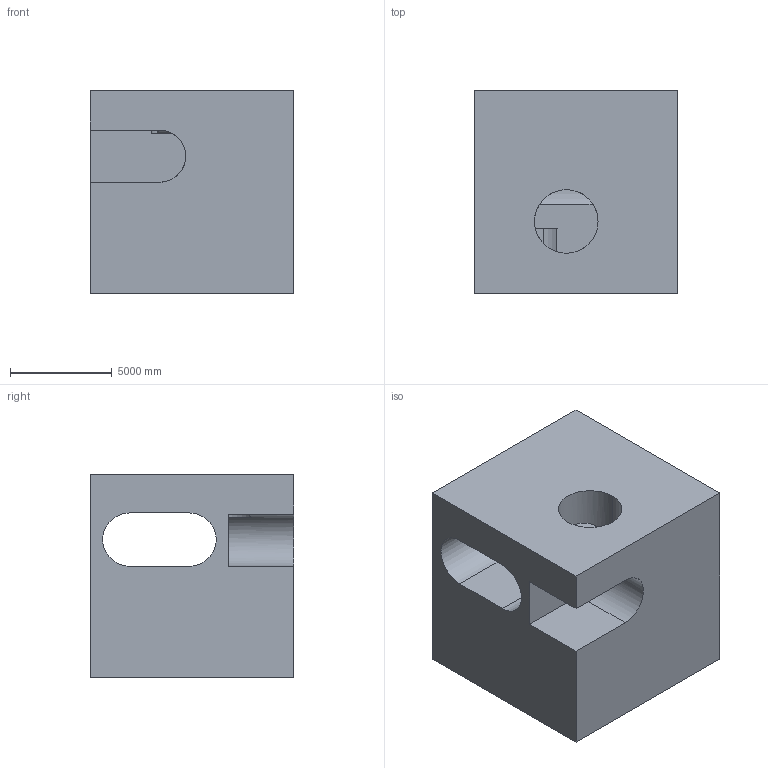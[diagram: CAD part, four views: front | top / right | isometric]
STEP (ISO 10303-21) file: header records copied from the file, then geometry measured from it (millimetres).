
FILE_DESCRIPTION (( 'STEP AP203' ), '1' );
FILE_NAME ('270.STEP', '2022-07-28T14:09:48', ( 'user' ), ( '' ), 'SwSTEP 2.0', 'SolidWorks 2021', '' );
FILE_SCHEMA (( 'CONFIG_CONTROL_DESIGN' ));
Length unit declared in the file: centimetre
Products named in the file (1): 270
Bounding box: 10000 x 10000 x 10000 mm (x, y, z)
Volume: 815892037445.8 mm3; surface area: 757466259.9 mm2
Topology: 1 solids, 1 shells, 17 faces, 51 edges, 34 vertices
Faces by surface type: plane 12, cylinder 5
Entity records: 785 total; most frequent: CARTESIAN_POINT 225, ORIENTED_EDGE 102, DIRECTION 98, EDGE_CURVE 51, VECTOR 36, LINE 36, VERTEX_POINT 34, AXIS2_PLACEMENT_3D 31
